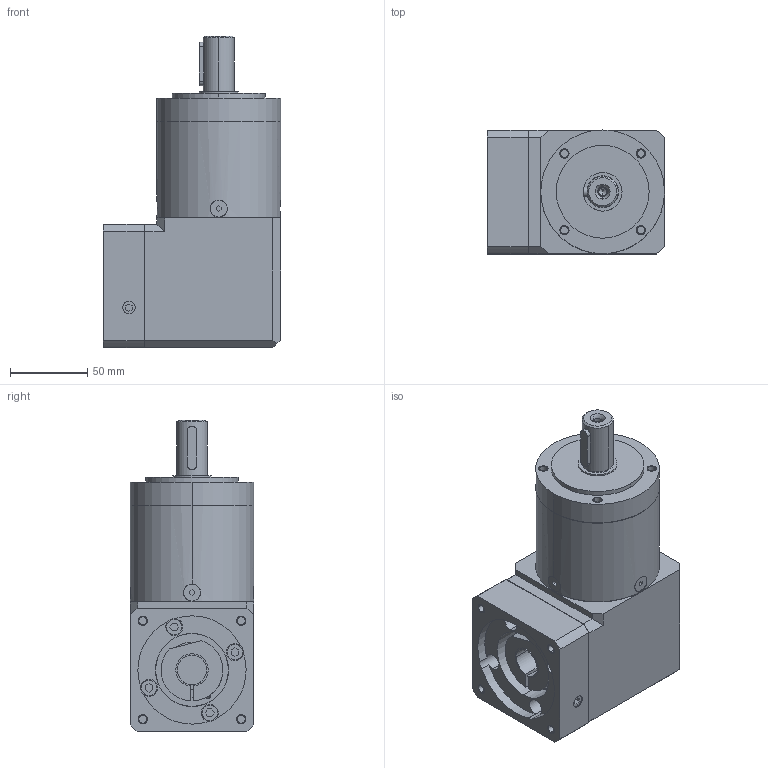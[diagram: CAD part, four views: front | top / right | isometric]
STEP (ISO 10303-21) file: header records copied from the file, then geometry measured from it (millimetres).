
FILE_DESCRIPTION((''),'2;1');
FILE_NAME('MB_WPLE_MASTER','2026-03-31T13:41:22',('agw'),(''),'CREO PARAMETRIC BY PTC INC, 2022124','CREO PARAMETRIC BY PTC INC, 2022124','');
FILE_SCHEMA(('AUTOMOTIVE_DESIGN { 1 0 10303 214 1 1 1 1 }'));
Length unit declared in the file: millimetre
Products named in the file (1): MB_WPLE_MASTER
Bounding box: 114.5 x 80 x 201.5 mm (x, y, z)
Volume: 1106191.8 mm3; surface area: 89349.2 mm2
Topology: 1 solids, 10 shells, 284 faces, 715 edges, 519 vertices
Faces by surface type: plane 160, cylinder 110, torus 8, cone 6
Entity records: 10063 total; most frequent: CARTESIAN_POINT 1657, DIRECTION 1557, ORIENTED_EDGE 1320, EDGE_CURVE 678, AXIS2_PLACEMENT_3D 553, VECTOR 451, LINE 451, VERTEX_POINT 447
